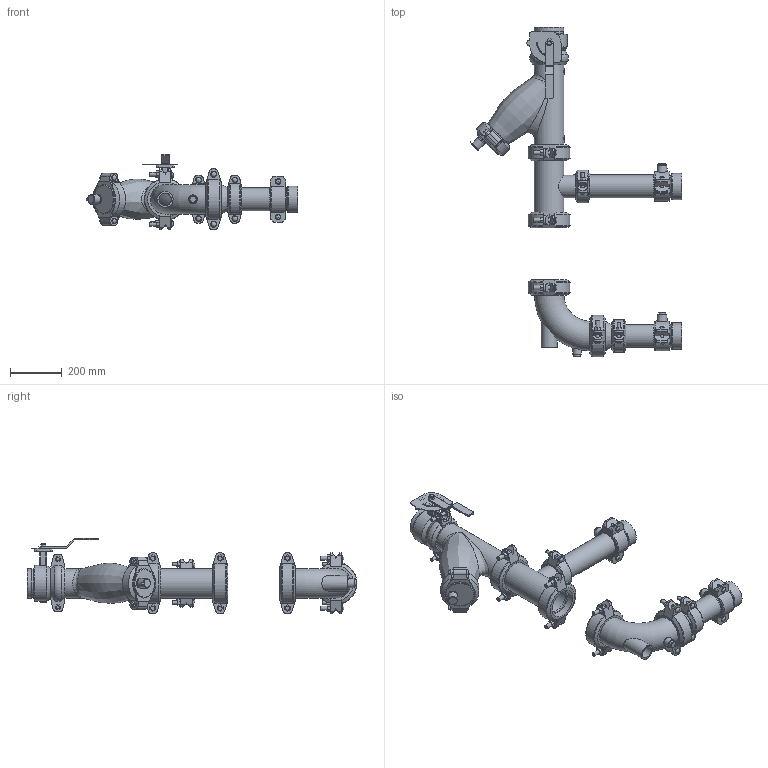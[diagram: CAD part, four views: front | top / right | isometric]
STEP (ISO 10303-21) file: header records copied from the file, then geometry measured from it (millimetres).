
FILE_DESCRIPTION(/* description */ ('VIC SVI DOUBLE COIL AHU DROP LOW PROFILE SERIES 385H (OGSxFPT)','CAx-IF Rec.Pracs.---Representation and Presentation of Product Manufacturing Information (PMI)---4.0---2014-10-13'),/* implementation_level */ '2;1');
FILE_NAME(/* name */ 'C:\Users\Vjadhav\AppData\Roaming\Autodesk\ApplicationPlugins\Victaulic.Temp\A526\Victaulic_IPS_SVI_Double Coil_Low Profile_Series 385H (OGSxFPT)_04.0x03.0 (100x80).stp',/* time_stamp */ '2021-03-17T15:41:43+05:00',/* author */ ('Vjadhav'),/* organization */ ('Victaulic'),/* preprocessor_version */ 'ST-DEVELOPER v17.2',/* originating_system */ 'Autodesk Inventor 2019',/* authorisation */ '');
FILE_SCHEMA (('AP242_MANAGED_MODEL_BASED_3D_ENGINEERING_MIM_LF { 1 0 10303 442 1 1 4 }'));
Length unit declared in the file: inch
Products named in the file (16): 385H-04.0x03.0; Pipe-03.0; 050-04.0x03.0; 025-04.0x03.0; 177N-04.0; 732-04.0; 732-04.0_1; 07-04.0; 732-04.0_2; 107N-04.0; 761-04.0; 177N-03.0; Pipe_(11 5/8")-03.0; 072-03.0x0.75; 080-03.0; 100G-04.0
Assembly tree (21 placements, depth 3):
  385H-04.0x03.0
    080-03.0  x2
    072-03.0x0.75  x2
    Pipe-03.0
    177N-03.0  x2
    050-04.0x03.0
    177N-04.0  x4
    025-04.0x03.0
    732-04.0
      732-04.0_1
      07-04.0
      732-04.0_2
    107N-04.0
    761-04.0
    Pipe_(11 5/8")-03.0
    100G-04.0
Bounding box: 820.96 x 1277.87 x 293.57 mm (x, y, z)
Volume: 10346327.6 mm3; surface area: 2293295 mm2
Topology: 20 solids, 23 shells, 1218 faces, 3305 edges, 2202 vertices
Faces by surface type: plane 665, cylinder 408, torus 54, cone 47, bspline 28, sphere 16
Full cylindrical faces by diameter (mm): 4.826 x10, 8.636 x4, 10.16 x8, 12.7 x12, 14.605 x4, 14.986 x2, 15.875 x8, 20.93 x3, 21.59 x4, 22.225 x8, 22.86 x1, 23.495 x8, 25.4 x2, 26.67 x4, 33.401 x2, 34.29 x1, 35.941 x1, 37.211 x1, 48.26 x1, 55.118 x1, 60.96 x1, 76.2 x2, 77.787 x1, 77.927 x5, 84.938 x8, 88.9 x22, 95.25 x1, 98.831 x1, 99.06 x1, 101.6 x7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
Entity records: 29245 total; most frequent: CARTESIAN_POINT 8357, DIRECTION 4262, ORIENTED_EDGE 3996, EDGE_CURVE 1998, AXIS2_PLACEMENT_3D 1630, VERTEX_POINT 1345, LINE 1002, VECTOR 1002
